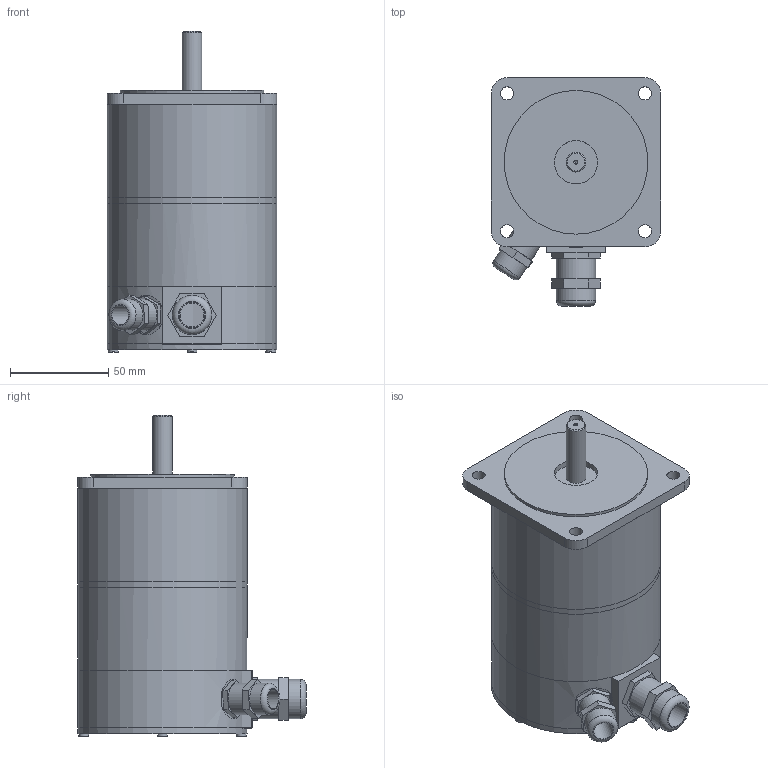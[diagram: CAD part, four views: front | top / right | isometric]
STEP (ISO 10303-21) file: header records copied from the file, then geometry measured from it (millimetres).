
FILE_DESCRIPTION((''),'2;1');
FILE_NAME('C:\Users\Reinhard\Documents\Inventor\Testschrittmotor\SM87\SM87.1-B-KV.stp','2012-11-12T22:02:44',('Reinhard'),(''),'Autodesk Inventor 2012','Autodesk Inventor 2012','');
FILE_SCHEMA(('CONFIG_CONTROL_DESIGN'));
Length unit declared in the file: millimetre
Products named in the file (1): SM87
Bounding box: 86 x 115.99 x 163.4 mm (x, y, z)
Volume: 169529 mm3; surface area: 110198.4 mm2
Topology: 2 solids, 3 shells, 142 faces, 317 edges, 205 vertices
Faces by surface type: plane 86, cylinder 49, cone 3, sphere 2, torus 2
Full cylindrical faces by diameter (mm): 2 x1, 5 x4, 6.6 x4, 10 x2, 12 x2, 13 x2, 15 x1, 16 x2, 18.376 x1, 20 x3, 22 x1, 73 x1, 78 x2, 82 x2, 86 x4
Entity records: 3824 total; most frequent: CARTESIAN_POINT 737, DIRECTION 653, ORIENTED_EDGE 540, EDGE_CURVE 270, AXIS2_PLACEMENT_3D 253, EDGE_LOOP 217, VERTEX_POINT 195, VECTOR 147
